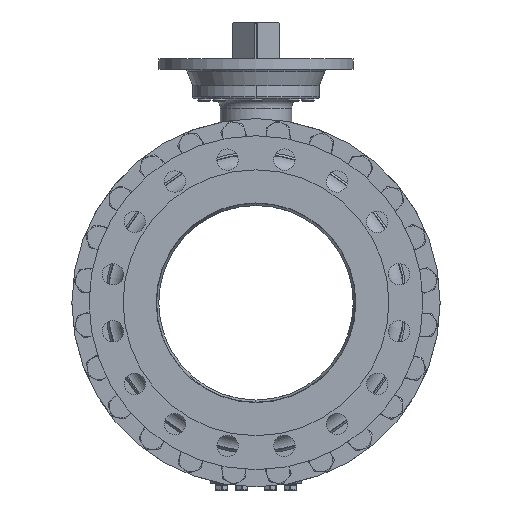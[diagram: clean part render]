
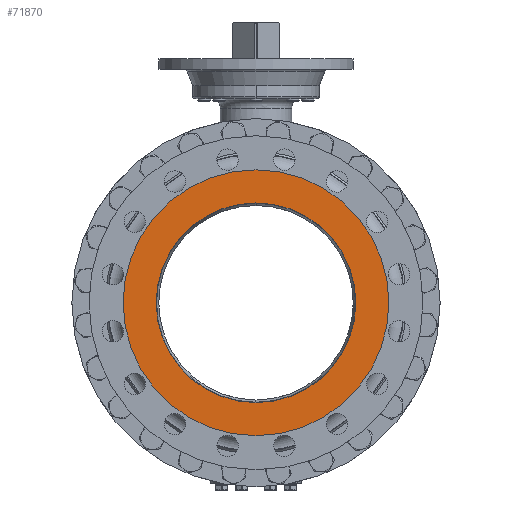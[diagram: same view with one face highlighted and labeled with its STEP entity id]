
A CAD part, left-side view. The second image highlights one B-rep face of the part: STEP entity #71870.
In plain terms, the highlighted planar face has unit normal (-1, 0, 0).
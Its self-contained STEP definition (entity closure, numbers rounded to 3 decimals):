
#5953=CARTESIAN_POINT('',(-324.,0.,0.));
#5954=DIRECTION('',(1.,0.,0.));
#5955=DIRECTION('',(0.,0.,1.));
#5956=AXIS2_PLACEMENT_3D('',#5953,#5954,#5955);
#5958=CARTESIAN_POINT('',(-324.,0.,0.));
#5959=DIRECTION('',(1.,0.,0.));
#5960=DIRECTION('',(0.,0.,-1.));
#5961=AXIS2_PLACEMENT_3D('',#5958,#5959,#5960);
#5963=CARTESIAN_POINT('',(-324.,0.,0.));
#5964=DIRECTION('',(1.,0.,0.));
#5965=DIRECTION('',(0.,0.,1.));
#5966=AXIS2_PLACEMENT_3D('',#5963,#5964,#5965);
#5968=CARTESIAN_POINT('',(-324.,0.,0.));
#5969=DIRECTION('',(-1.,0.,0.));
#5970=DIRECTION('',(0.,0.,1.));
#5971=AXIS2_PLACEMENT_3D('',#5968,#5969,#5970);
#59769=CARTESIAN_POINT('',(-324.,0.,153.95));
#59771=VERTEX_POINT('',#59769);
#59773=CARTESIAN_POINT('',(-324.,0.,-153.95));
#59775=VERTEX_POINT('',#59773);
#59804=CARTESIAN_POINT('',(-324.,0.,205.));
#59805=CARTESIAN_POINT('',(-324.,0.,-205.));
#59806=VERTEX_POINT('',#59804);
#59807=VERTEX_POINT('',#59805);
#71854=CARTESIAN_POINT('',(-324.,0.,0.));
#71855=DIRECTION('',(-1.,0.,0.));
#71856=DIRECTION('',(0.,0.,-1.));
#71857=AXIS2_PLACEMENT_3D('',#71854,#71855,#71856);
#71858=PLANE('',#71857);
#71860=ORIENTED_EDGE('',*,*,#71859,.T.);
#71861=ORIENTED_EDGE('',*,*,#71844,.T.);
#71862=EDGE_LOOP('',(#71860,#71861));
#71863=FACE_OUTER_BOUND('',#71862,.F.);
#71865=ORIENTED_EDGE('',*,*,#71864,.F.);
#71867=ORIENTED_EDGE('',*,*,#71866,.T.);
#71868=EDGE_LOOP('',(#71865,#71867));
#71869=FACE_BOUND('',#71868,.F.);
#71870=ADVANCED_FACE('',(#71863,#71869),#71858,.T.);
#5957=CIRCLE('',#5956,205.);
#5962=CIRCLE('',#5961,205.);
#5967=CIRCLE('',#5966,153.95);
#5972=CIRCLE('',#5971,153.95);
#71844=EDGE_CURVE('',#59807,#59806,#5962,.T.);
#71859=EDGE_CURVE('',#59806,#59807,#5957,.T.);
#71864=EDGE_CURVE('',#59771,#59775,#5967,.T.);
#71866=EDGE_CURVE('',#59771,#59775,#5972,.T.);
